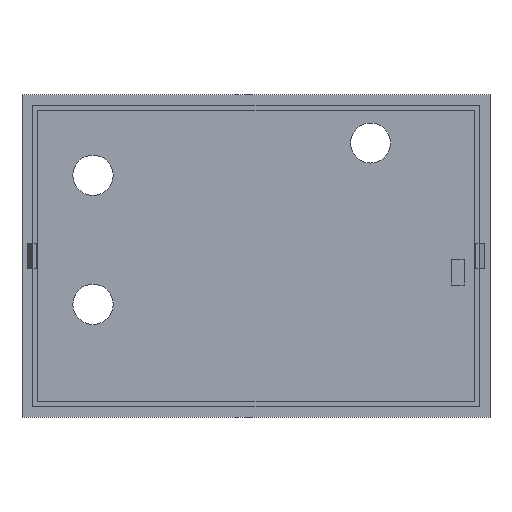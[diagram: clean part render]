
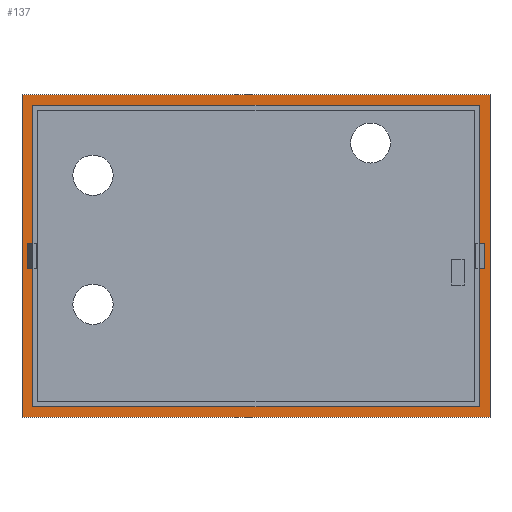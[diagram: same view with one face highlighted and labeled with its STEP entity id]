
A CAD part, front view. The second image highlights one B-rep face of the part: STEP entity #137.
In plain terms, the highlighted planar face has unit normal (0, -1, 0).
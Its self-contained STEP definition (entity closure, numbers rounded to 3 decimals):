
#21 = EDGE_CURVE('',#22,#24,#26,.T.);
#22 = VERTEX_POINT('',#23);
#23 = CARTESIAN_POINT('',(0.,112.,0.));
#24 = VERTEX_POINT('',#25);
#25 = CARTESIAN_POINT('',(0.,112.,100.));
#26 = SURFACE_CURVE('',#27,(#31,#43),.PCURVE_S1.);
#27 = LINE('',#28,#29);
#28 = CARTESIAN_POINT('',(0.,112.,0.));
#29 = VECTOR('',#30,1.);
#30 = DIRECTION('',(0.,0.,1.));
#31 = PCURVE('',#32,#37);
#32 = PLANE('',#33);
#33 = AXIS2_PLACEMENT_3D('',#34,#35,#36);
#34 = CARTESIAN_POINT('',(0.,112.,0.));
#35 = DIRECTION('',(1.,0.,0.));
#36 = DIRECTION('',(0.,0.,1.));
#37 = DEFINITIONAL_REPRESENTATION('',(#38),#42);
#38 = LINE('',#39,#40);
#39 = CARTESIAN_POINT('',(0.,0.));
#40 = VECTOR('',#41,1.);
#41 = DIRECTION('',(1.,0.));
#42 = ( GEOMETRIC_REPRESENTATION_CONTEXT(2) 
PARAMETRIC_REPRESENTATION_CONTEXT() REPRESENTATION_CONTEXT('2D SPACE',''
  ) );
#43 = PCURVE('',#44,#49);
#44 = PLANE('',#45);
#45 = AXIS2_PLACEMENT_3D('',#46,#47,#48);
#46 = CARTESIAN_POINT('',(0.,112.,0.));
#47 = DIRECTION('',(0.,1.,0.));
#48 = DIRECTION('',(0.,0.,1.));
#49 = DEFINITIONAL_REPRESENTATION('',(#50),#54);
#50 = LINE('',#51,#52);
#51 = CARTESIAN_POINT('',(0.,0.));
#52 = VECTOR('',#53,1.);
#53 = DIRECTION('',(1.,0.));
#54 = ( GEOMETRIC_REPRESENTATION_CONTEXT(2) 
PARAMETRIC_REPRESENTATION_CONTEXT() REPRESENTATION_CONTEXT('2D SPACE',''
  ) );
#72 = PLANE('',#73);
#73 = AXIS2_PLACEMENT_3D('',#74,#75,#76);
#74 = CARTESIAN_POINT('',(0.,112.,0.));
#75 = DIRECTION('',(0.,0.,1.));
#76 = DIRECTION('',(1.,0.,0.));
#126 = PLANE('',#127);
#127 = AXIS2_PLACEMENT_3D('',#128,#129,#130);
#128 = CARTESIAN_POINT('',(0.,112.,100.));
#129 = DIRECTION('',(0.,0.,1.));
#130 = DIRECTION('',(1.,0.,0.));
#137 = ADVANCED_FACE('',(#138,#213),#44,.F.);
#138 = FACE_BOUND('',#139,.F.);
#139 = EDGE_LOOP('',(#140,#163,#164,#187));
#140 = ORIENTED_EDGE('',*,*,#141,.F.);
#141 = EDGE_CURVE('',#22,#142,#144,.T.);
#142 = VERTEX_POINT('',#143);
#143 = CARTESIAN_POINT('',(145.,112.,0.));
#144 = SURFACE_CURVE('',#145,(#149,#156),.PCURVE_S1.);
#145 = LINE('',#146,#147);
#146 = CARTESIAN_POINT('',(0.,112.,0.));
#147 = VECTOR('',#148,1.);
#148 = DIRECTION('',(1.,0.,0.));
#149 = PCURVE('',#44,#150);
#150 = DEFINITIONAL_REPRESENTATION('',(#151),#155);
#151 = LINE('',#152,#153);
#152 = CARTESIAN_POINT('',(0.,0.));
#153 = VECTOR('',#154,1.);
#154 = DIRECTION('',(0.,1.));
#155 = ( GEOMETRIC_REPRESENTATION_CONTEXT(2) 
PARAMETRIC_REPRESENTATION_CONTEXT() REPRESENTATION_CONTEXT('2D SPACE',''
  ) );
#156 = PCURVE('',#72,#157);
#157 = DEFINITIONAL_REPRESENTATION('',(#158),#162);
#158 = LINE('',#159,#160);
#159 = CARTESIAN_POINT('',(0.,0.));
#160 = VECTOR('',#161,1.);
#161 = DIRECTION('',(1.,0.));
#162 = ( GEOMETRIC_REPRESENTATION_CONTEXT(2) 
PARAMETRIC_REPRESENTATION_CONTEXT() REPRESENTATION_CONTEXT('2D SPACE',''
  ) );
#163 = ORIENTED_EDGE('',*,*,#21,.T.);
#164 = ORIENTED_EDGE('',*,*,#165,.T.);
#165 = EDGE_CURVE('',#24,#166,#168,.T.);
#166 = VERTEX_POINT('',#167);
#167 = CARTESIAN_POINT('',(145.,112.,100.));
#168 = SURFACE_CURVE('',#169,(#173,#180),.PCURVE_S1.);
#169 = LINE('',#170,#171);
#170 = CARTESIAN_POINT('',(0.,112.,100.));
#171 = VECTOR('',#172,1.);
#172 = DIRECTION('',(1.,0.,0.));
#173 = PCURVE('',#44,#174);
#174 = DEFINITIONAL_REPRESENTATION('',(#175),#179);
#175 = LINE('',#176,#177);
#176 = CARTESIAN_POINT('',(100.,0.));
#177 = VECTOR('',#178,1.);
#178 = DIRECTION('',(0.,1.));
#179 = ( GEOMETRIC_REPRESENTATION_CONTEXT(2) 
PARAMETRIC_REPRESENTATION_CONTEXT() REPRESENTATION_CONTEXT('2D SPACE',''
  ) );
#180 = PCURVE('',#126,#181);
#181 = DEFINITIONAL_REPRESENTATION('',(#182),#186);
#182 = LINE('',#183,#184);
#183 = CARTESIAN_POINT('',(0.,0.));
#184 = VECTOR('',#185,1.);
#185 = DIRECTION('',(1.,0.));
#186 = ( GEOMETRIC_REPRESENTATION_CONTEXT(2) 
PARAMETRIC_REPRESENTATION_CONTEXT() REPRESENTATION_CONTEXT('2D SPACE',''
  ) );
#187 = ORIENTED_EDGE('',*,*,#188,.F.);
#188 = EDGE_CURVE('',#142,#166,#189,.T.);
#189 = SURFACE_CURVE('',#190,(#194,#201),.PCURVE_S1.);
#190 = LINE('',#191,#192);
#191 = CARTESIAN_POINT('',(145.,112.,0.));
#192 = VECTOR('',#193,1.);
#193 = DIRECTION('',(0.,0.,1.));
#194 = PCURVE('',#44,#195);
#195 = DEFINITIONAL_REPRESENTATION('',(#196),#200);
#196 = LINE('',#197,#198);
#197 = CARTESIAN_POINT('',(0.,145.));
#198 = VECTOR('',#199,1.);
#199 = DIRECTION('',(1.,0.));
#200 = ( GEOMETRIC_REPRESENTATION_CONTEXT(2) 
PARAMETRIC_REPRESENTATION_CONTEXT() REPRESENTATION_CONTEXT('2D SPACE',''
  ) );
#201 = PCURVE('',#202,#207);
#202 = PLANE('',#203);
#203 = AXIS2_PLACEMENT_3D('',#204,#205,#206);
#204 = CARTESIAN_POINT('',(145.,112.,0.));
#205 = DIRECTION('',(1.,0.,0.));
#206 = DIRECTION('',(0.,0.,1.));
#207 = DEFINITIONAL_REPRESENTATION('',(#208),#212);
#208 = LINE('',#209,#210);
#209 = CARTESIAN_POINT('',(0.,0.));
#210 = VECTOR('',#211,1.);
#211 = DIRECTION('',(1.,0.));
#212 = ( GEOMETRIC_REPRESENTATION_CONTEXT(2) 
PARAMETRIC_REPRESENTATION_CONTEXT() REPRESENTATION_CONTEXT('2D SPACE',''
  ) );
#213 = FACE_BOUND('',#214,.F.);
#214 = EDGE_LOOP('',(#215,#245,#273,#301));
#215 = ORIENTED_EDGE('',*,*,#216,.F.);
#216 = EDGE_CURVE('',#217,#219,#221,.T.);
#217 = VERTEX_POINT('',#218);
#218 = CARTESIAN_POINT('',(3.3,112.,96.7));
#219 = VERTEX_POINT('',#220);
#220 = CARTESIAN_POINT('',(141.7,112.,96.7));
#221 = SURFACE_CURVE('',#222,(#226,#233),.PCURVE_S1.);
#222 = LINE('',#223,#224);
#223 = CARTESIAN_POINT('',(3.3,112.,96.7));
#224 = VECTOR('',#225,1.);
#225 = DIRECTION('',(1.,0.,0.));
#226 = PCURVE('',#44,#227);
#227 = DEFINITIONAL_REPRESENTATION('',(#228),#232);
#228 = LINE('',#229,#230);
#229 = CARTESIAN_POINT('',(96.7,3.3));
#230 = VECTOR('',#231,1.);
#231 = DIRECTION('',(0.,1.));
#232 = ( GEOMETRIC_REPRESENTATION_CONTEXT(2) 
PARAMETRIC_REPRESENTATION_CONTEXT() REPRESENTATION_CONTEXT('2D SPACE',''
  ) );
#233 = PCURVE('',#234,#239);
#234 = PLANE('',#235);
#235 = AXIS2_PLACEMENT_3D('',#236,#237,#238);
#236 = CARTESIAN_POINT('',(3.3,109.,96.7));
#237 = DIRECTION('',(0.,0.,1.));
#238 = DIRECTION('',(1.,0.,0.));
#239 = DEFINITIONAL_REPRESENTATION('',(#240),#244);
#240 = LINE('',#241,#242);
#241 = CARTESIAN_POINT('',(0.,3.));
#242 = VECTOR('',#243,1.);
#243 = DIRECTION('',(1.,0.));
#244 = ( GEOMETRIC_REPRESENTATION_CONTEXT(2) 
PARAMETRIC_REPRESENTATION_CONTEXT() REPRESENTATION_CONTEXT('2D SPACE',''
  ) );
#245 = ORIENTED_EDGE('',*,*,#246,.F.);
#246 = EDGE_CURVE('',#247,#217,#249,.T.);
#247 = VERTEX_POINT('',#248);
#248 = CARTESIAN_POINT('',(3.3,112.,3.3));
#249 = SURFACE_CURVE('',#250,(#254,#261),.PCURVE_S1.);
#250 = LINE('',#251,#252);
#251 = CARTESIAN_POINT('',(3.3,112.,3.3));
#252 = VECTOR('',#253,1.);
#253 = DIRECTION('',(0.,0.,1.));
#254 = PCURVE('',#44,#255);
#255 = DEFINITIONAL_REPRESENTATION('',(#256),#260);
#256 = LINE('',#257,#258);
#257 = CARTESIAN_POINT('',(3.3,3.3));
#258 = VECTOR('',#259,1.);
#259 = DIRECTION('',(1.,0.));
#260 = ( GEOMETRIC_REPRESENTATION_CONTEXT(2) 
PARAMETRIC_REPRESENTATION_CONTEXT() REPRESENTATION_CONTEXT('2D SPACE',''
  ) );
#261 = PCURVE('',#262,#267);
#262 = PLANE('',#263);
#263 = AXIS2_PLACEMENT_3D('',#264,#265,#266);
#264 = CARTESIAN_POINT('',(3.3,109.,3.3));
#265 = DIRECTION('',(1.,0.,0.));
#266 = DIRECTION('',(0.,0.,1.));
#267 = DEFINITIONAL_REPRESENTATION('',(#268),#272);
#268 = LINE('',#269,#270);
#269 = CARTESIAN_POINT('',(0.,-3.));
#270 = VECTOR('',#271,1.);
#271 = DIRECTION('',(1.,0.));
#272 = ( GEOMETRIC_REPRESENTATION_CONTEXT(2) 
PARAMETRIC_REPRESENTATION_CONTEXT() REPRESENTATION_CONTEXT('2D SPACE',''
  ) );
#273 = ORIENTED_EDGE('',*,*,#274,.T.);
#274 = EDGE_CURVE('',#247,#275,#277,.T.);
#275 = VERTEX_POINT('',#276);
#276 = CARTESIAN_POINT('',(141.7,112.,3.3));
#277 = SURFACE_CURVE('',#278,(#282,#289),.PCURVE_S1.);
#278 = LINE('',#279,#280);
#279 = CARTESIAN_POINT('',(3.3,112.,3.3));
#280 = VECTOR('',#281,1.);
#281 = DIRECTION('',(1.,0.,0.));
#282 = PCURVE('',#44,#283);
#283 = DEFINITIONAL_REPRESENTATION('',(#284),#288);
#284 = LINE('',#285,#286);
#285 = CARTESIAN_POINT('',(3.3,3.3));
#286 = VECTOR('',#287,1.);
#287 = DIRECTION('',(0.,1.));
#288 = ( GEOMETRIC_REPRESENTATION_CONTEXT(2) 
PARAMETRIC_REPRESENTATION_CONTEXT() REPRESENTATION_CONTEXT('2D SPACE',''
  ) );
#289 = PCURVE('',#290,#295);
#290 = PLANE('',#291);
#291 = AXIS2_PLACEMENT_3D('',#292,#293,#294);
#292 = CARTESIAN_POINT('',(3.3,109.,3.3));
#293 = DIRECTION('',(0.,0.,1.));
#294 = DIRECTION('',(1.,0.,0.));
#295 = DEFINITIONAL_REPRESENTATION('',(#296),#300);
#296 = LINE('',#297,#298);
#297 = CARTESIAN_POINT('',(0.,3.));
#298 = VECTOR('',#299,1.);
#299 = DIRECTION('',(1.,0.));
#300 = ( GEOMETRIC_REPRESENTATION_CONTEXT(2) 
PARAMETRIC_REPRESENTATION_CONTEXT() REPRESENTATION_CONTEXT('2D SPACE',''
  ) );
#301 = ORIENTED_EDGE('',*,*,#302,.T.);
#302 = EDGE_CURVE('',#275,#219,#303,.T.);
#303 = SURFACE_CURVE('',#304,(#308,#315),.PCURVE_S1.);
#304 = LINE('',#305,#306);
#305 = CARTESIAN_POINT('',(141.7,112.,3.3));
#306 = VECTOR('',#307,1.);
#307 = DIRECTION('',(0.,0.,1.));
#308 = PCURVE('',#44,#309);
#309 = DEFINITIONAL_REPRESENTATION('',(#310),#314);
#310 = LINE('',#311,#312);
#311 = CARTESIAN_POINT('',(3.3,141.7));
#312 = VECTOR('',#313,1.);
#313 = DIRECTION('',(1.,0.));
#314 = ( GEOMETRIC_REPRESENTATION_CONTEXT(2) 
PARAMETRIC_REPRESENTATION_CONTEXT() REPRESENTATION_CONTEXT('2D SPACE',''
  ) );
#315 = PCURVE('',#316,#321);
#316 = PLANE('',#317);
#317 = AXIS2_PLACEMENT_3D('',#318,#319,#320);
#318 = CARTESIAN_POINT('',(141.7,109.,3.3));
#319 = DIRECTION('',(1.,0.,0.));
#320 = DIRECTION('',(0.,0.,1.));
#321 = DEFINITIONAL_REPRESENTATION('',(#322),#326);
#322 = LINE('',#323,#324);
#323 = CARTESIAN_POINT('',(0.,-3.));
#324 = VECTOR('',#325,1.);
#325 = DIRECTION('',(1.,0.));
#326 = ( GEOMETRIC_REPRESENTATION_CONTEXT(2) 
PARAMETRIC_REPRESENTATION_CONTEXT() REPRESENTATION_CONTEXT('2D SPACE',''
  ) );
